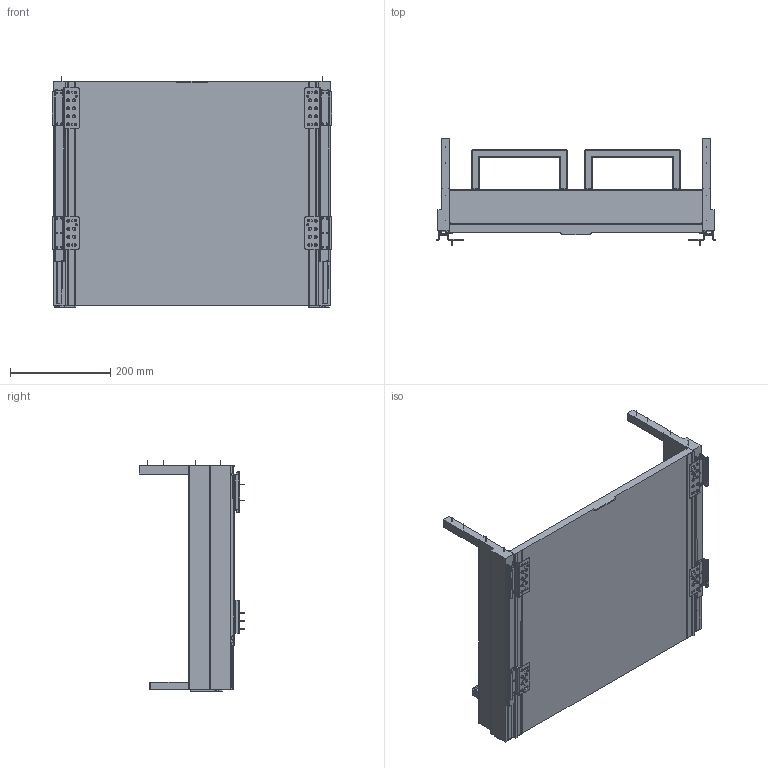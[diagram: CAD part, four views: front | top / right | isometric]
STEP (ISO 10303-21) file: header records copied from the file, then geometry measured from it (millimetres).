
FILE_DESCRIPTION((''),'2;1');
FILE_NAME('80_61_401','2024-08-30T09:54:33',('bru'),(''),'CREO PARAMETRIC BY PTC INC, 2022024','CREO PARAMETRIC BY PTC INC, 2022024','');
FILE_SCHEMA(('AUTOMOTIVE_DESIGN { 1 0 10303 214 1 1 1 1 }'));
Length unit declared in the file: millimetre
Products named in the file (1): 80_61_401
Bounding box: 556.5 x 211.06 x 461.2 mm (x, y, z)
Volume: 5794269.8 mm3; surface area: 965251.1 mm2
Topology: 15 solids, 15 shells, 1345 faces, 3706 edges, 2446 vertices
Faces by surface type: plane 672, cylinder 471, extrusion 90, torus 80, sphere 20, bspline 12
Entity records: 46843 total; most frequent: CARTESIAN_POINT 11716, ORIENTED_EDGE 7398, DIRECTION 7066, EDGE_CURVE 3699, VERTEX_POINT 2440, VECTOR 2365, AXIS2_PLACEMENT_3D 2349, LINE 2275
